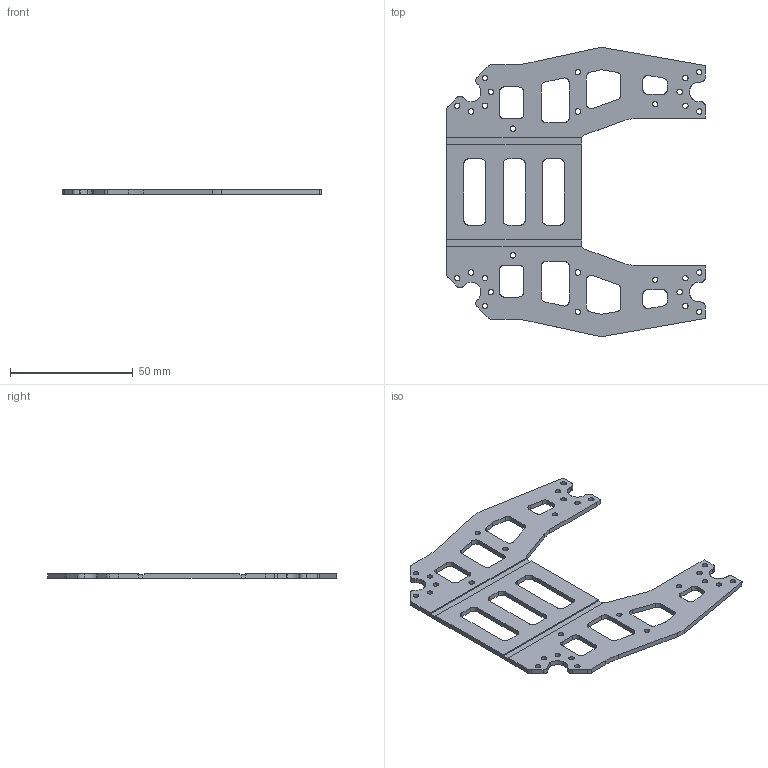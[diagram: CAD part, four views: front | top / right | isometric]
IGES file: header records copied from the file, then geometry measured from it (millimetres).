
Global section: file name: C:\Users\Knabe\Documents\Classes\8 Semester 8\DARwIn\Deliverables\DARwIn OP\DARwIn OP Part Files\CAD 2D\2D IGS\17_FR07_H133.igs; native system: NX V7.0; preprocessor: SIEMENS PLM Software NX 7.0; date: 20110525.175302; units: millimetre
Bounding box: 105.5 x 117.69 x 2 mm (x, y, z)
Surface area: 14891.5 mm2 (no closed solid volume)
Topology: 0 solids, 0 shells, 245 faces, 1896 edges, 1910 vertices
Faces by surface type: bspline 245
